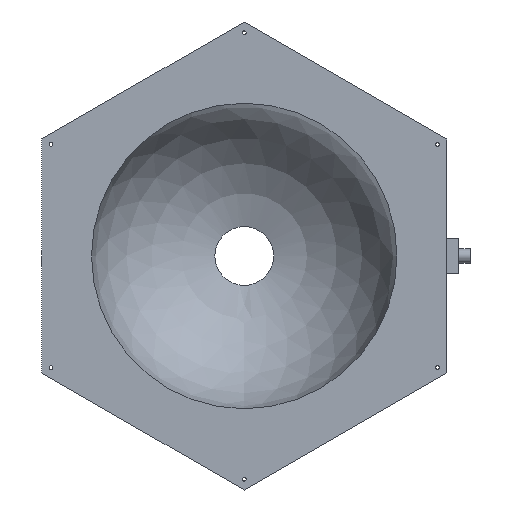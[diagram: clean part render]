
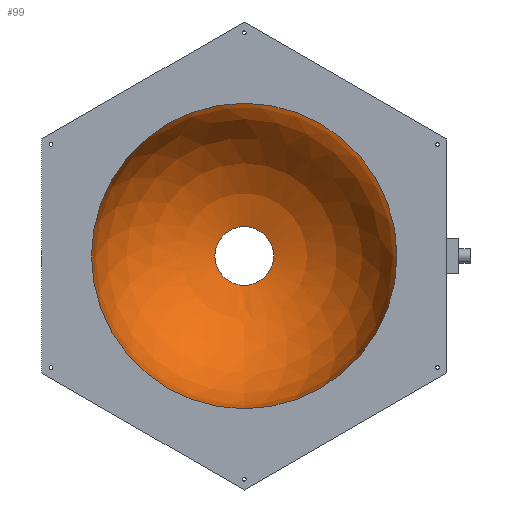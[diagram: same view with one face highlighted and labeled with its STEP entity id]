
A CAD part, front view. The second image highlights one B-rep face of the part: STEP entity #99.
In plain terms, the highlighted spherical face has radius 130 mm.
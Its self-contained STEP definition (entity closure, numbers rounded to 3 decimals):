
#99 = ADVANCED_FACE( '', ( #226, #227 ), #228, .F. );
#226 = FACE_OUTER_BOUND( '', #391, .T. );
#227 = FACE_OUTER_BOUND( '', #392, .T. );
#228 = SPHERICAL_SURFACE( '', #393, 130. );
#391 = EDGE_LOOP( '', ( #615 ) );
#392 = EDGE_LOOP( '', ( #616 ) );
#393 = AXIS2_PLACEMENT_3D( '', #617, #618, #619 );
#615 = ORIENTED_EDGE( '', *, *, #835, .F. );
#616 = ORIENTED_EDGE( '', *, *, #866, .T. );
#617 = CARTESIAN_POINT( '', ( 0., 0., 0. ) );
#618 = DIRECTION( '', ( 0., -1., 0. ) );
#619 = DIRECTION( '', ( 1., 0., 0. ) );
#835 = EDGE_CURVE( '', #973, #973, #974, .T. );
#866 = EDGE_CURVE( '', #1021, #1021, #1022, .T. );
#973 = VERTEX_POINT( '', #1150 );
#974 = CIRCLE( '', #1151, 25. );
#1021 = VERTEX_POINT( '', #1212 );
#1022 = CIRCLE( '', #1213, 130. );
#1150 = CARTESIAN_POINT( '', ( 0., 127.574, -25. ) );
#1151 = AXIS2_PLACEMENT_3D( '', #1351, #1352, #1353 );
#1212 = CARTESIAN_POINT( '', ( 0., 0., -130. ) );
#1213 = AXIS2_PLACEMENT_3D( '', #1392, #1393, #1394 );
#1351 = CARTESIAN_POINT( '', ( 0., 127.574, 0. ) );
#1352 = DIRECTION( '', ( 0., -1., 0. ) );
#1353 = DIRECTION( '', ( 0., 0., -1. ) );
#1392 = CARTESIAN_POINT( '', ( 0., 0., 0. ) );
#1393 = DIRECTION( '', ( 0., -1., 0. ) );
#1394 = DIRECTION( '', ( 0., 0., -1. ) );
